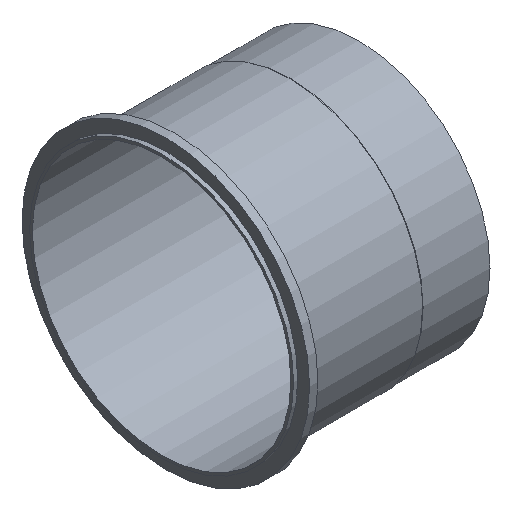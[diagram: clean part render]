
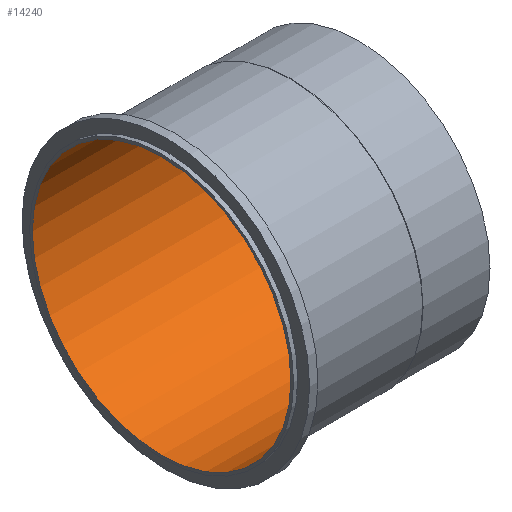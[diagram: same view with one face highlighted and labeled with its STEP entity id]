
A CAD part, isometric view. The second image highlights one B-rep face of the part: STEP entity #14240.
In plain terms, the highlighted cylindrical face has radius 98.425 mm (diameter 196.85 mm), a full revolution.
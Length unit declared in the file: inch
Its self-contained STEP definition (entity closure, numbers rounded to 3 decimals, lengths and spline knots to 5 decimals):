
#14209=CARTESIAN_POINT('',(5.90551,3.875,0.0));
#14210=VERTEX_POINT('',#14209);
#14211=CARTESIAN_POINT('',(5.90551,0.0,0.0));
#14212=DIRECTION('',(1.0,0.0,0.0));
#14213=DIRECTION('',(0.0,1.0,0.0));
#14214=AXIS2_PLACEMENT_3D('',#14211,#14212,#14213);
#14215=CIRCLE('',#14214,3.875);
#14216=EDGE_CURVE('',#14210,#14210,#14215,.T.);
#14221=CARTESIAN_POINT('',(2.95276,0.0,0.0));
#14222=DIRECTION('',(1.0,0.0,0.0));
#14223=DIRECTION('',(0.0,1.0,0.0));
#14224=AXIS2_PLACEMENT_3D('',#14221,#14222,#14223);
#14225=CYLINDRICAL_SURFACE('',#14224,3.875);
#14226=CARTESIAN_POINT('',(0.0,3.875,0.0));
#14227=VERTEX_POINT('',#14226);
#14228=CARTESIAN_POINT('',(0.0,0.0,0.0));
#14229=DIRECTION('',(1.0,0.0,0.0));
#14230=DIRECTION('',(0.0,1.0,0.0));
#14231=AXIS2_PLACEMENT_3D('',#14228,#14229,#14230);
#14232=CIRCLE('',#14231,3.875);
#14233=EDGE_CURVE('',#14227,#14227,#14232,.T.);
#14234=ORIENTED_EDGE('',*,*,#14233,.F.);
#14235=EDGE_LOOP('',(#14234));
#14236=FACE_OUTER_BOUND('',#14235,.T.);
#14237=ORIENTED_EDGE('',*,*,#14216,.T.);
#14238=EDGE_LOOP('',(#14237));
#14239=FACE_BOUND('',#14238,.T.);
#14240=ADVANCED_FACE('',(#14236,#14239),#14225,.F.);
